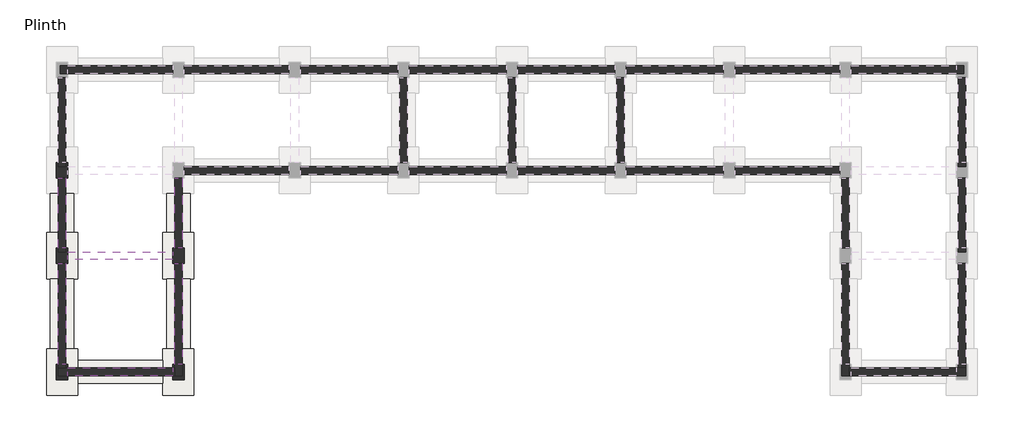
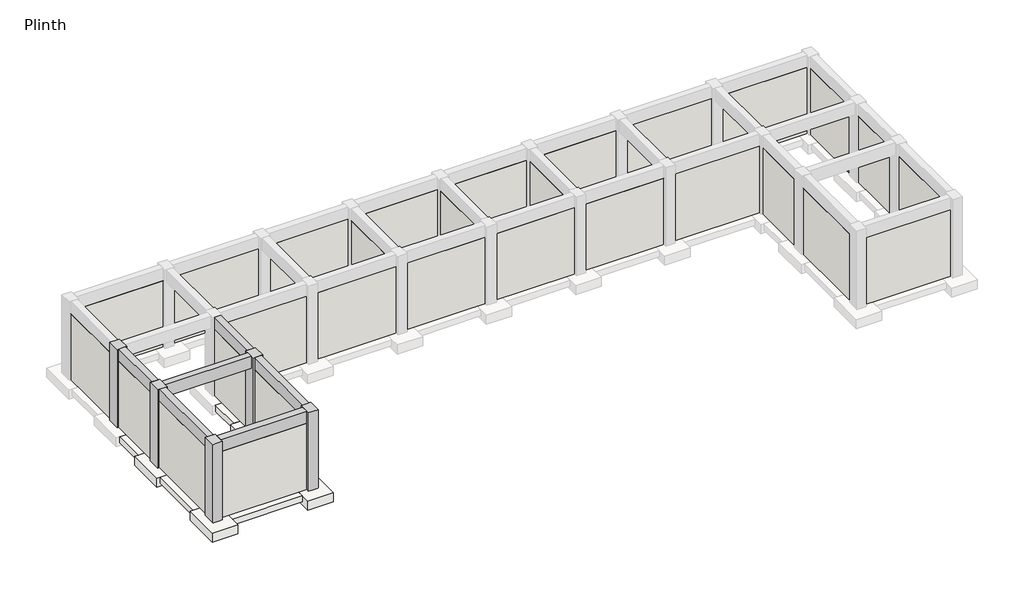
# One storey, part 1 of 3: 30 walls, 6 beams, 5 columns, 5 footings, 4 slabs.
"""IFC4 building model written with IfcOpenShell, lengths in millimetres."""

from ifc_helpers import new_model, si_unit, frame, origin, origin_with_axes, place, context, project, spatial, polyline, outline, extrude, faceted_brep, element, save

model = new_model("IFC4")

# Units and contexts
model_context = context("Model", 3, world=origin())
ifc_project = project(units=[si_unit("LENGTHUNIT", "METRE", prefix="MILLI")], contexts=[model_context])

# Site, building, storey
site = spatial("IfcSite", under=ifc_project)
building = spatial("IfcBuilding", under=site)
storey = spatial("IfcBuildingStorey", under=building, Name="Plinth", Elevation=304.8)

# Beams
placement = place(None, origin())
element("IfcBeam", 1, ObjectType="Concrete-Rectangular Beam : 12 x 24", at=placement, inside=storey, context=model_context, shape_type="SweptSolid", body=[
    extrude(outline(polyline([(-33700.7781752, 14207.7470864), (-33700.7781752, 13902.9470864), (-37815.5781752, 13902.9470864), (-37815.5781752, 14207.7470864), (-33700.7781752, 14207.7470864)])), frame((0.0, 0.0, 3657.6), z_axis=(0.0, 0.0, 1.0), x_axis=(1.0, 0.0, 0.0)), (0.0, 0.0, 1.0), 609.6),
])
element("IfcBeam", 2, ObjectType="Concrete-Rectangular Beam : 12 x 24", at=placement, inside=storey, context=model_context, shape_type="SweptSolid", body=[
    extrude(outline(polyline([(-38196.5781752, 17103.3470864), (-37891.7781752, 17103.3470864), (-37891.7781752, 14360.1470864), (-38196.5781752, 14360.1470864), (-38196.5781752, 17103.3470864)])), frame((0.0, 0.0, 3657.6), z_axis=(0.0, 0.0, 1.0), x_axis=(1.0, 0.0, 0.0)), (0.0, 0.0, 1.0), 609.6),
])
element("IfcBeam", 3, ObjectType="Concrete-Rectangular Beam : 12 x 24", at=placement, inside=storey, context=model_context, shape_type="SweptSolid", body=[
    extrude(outline(polyline([(-38196.5781752, 13750.5470864), (-37891.7781752, 13750.5470864), (-37891.7781752, 9788.1470864), (-38196.5781752, 9788.1470864), (-38196.5781752, 13750.5470864)])), frame((0.0, 0.0, 3657.6), z_axis=(0.0, 0.0, 1.0), x_axis=(1.0, 0.0, 0.0)), (0.0, 0.0, 1.0), 609.6),
])
element("IfcBeam", 4, ObjectType="Concrete-Rectangular Beam : 12 x 24", at=placement, inside=storey, context=model_context, shape_type="SweptSolid", body=[
    extrude(outline(polyline([(-33624.5781752, 17103.3470864), (-33319.7781752, 17103.3470864), (-33319.7781752, 14360.1470864), (-33624.5781752, 14360.1470864), (-33624.5781752, 17103.3470864)])), frame((0.0, 0.0, 3657.6), z_axis=(0.0, 0.0, 1.0), x_axis=(1.0, 0.0, 0.0)), (0.0, 0.0, 1.0), 609.6),
])
element("IfcBeam", 5, ObjectType="Concrete-Rectangular Beam : 12 x 24", at=placement, inside=storey, context=model_context, shape_type="SweptSolid", body=[
    extrude(outline(polyline([(-33624.5781752, 13750.5470864), (-33319.7781752, 13750.5470864), (-33319.7781752, 9788.1470864), (-33624.5781752, 9788.1470864), (-33624.5781752, 13750.5470864)])), frame((0.0, 0.0, 3657.6), z_axis=(0.0, 0.0, 1.0), x_axis=(1.0, 0.0, 0.0)), (0.0, 0.0, 1.0), 609.6),
])
element("IfcBeam", 6, ObjectType="Concrete-Rectangular Beam : 12 x 24", at=placement, inside=storey, context=model_context, shape_type="SweptSolid", body=[
    extrude(outline(polyline([(-33700.7781752, 9635.7470864), (-33700.7781752, 9330.9470864), (-37815.5781752, 9330.9470864), (-37815.5781752, 9635.7470864), (-33700.7781752, 9635.7470864)])), frame((0.0, 0.0, 3657.6), z_axis=(0.0, 0.0, 1.0), x_axis=(1.0, 0.0, 0.0)), (0.0, 0.0, 1.0), 609.6),
])

# Columns
element("IfcColumn", 7, ObjectType="Concrete-Rectangular-Column : 18 x 24", at=placement, inside=storey, context=model_context, shape_type="Brep", body=[
    faceted_brep([(-38272.7781752, 17103.3470864, 304.8), (-38272.7781752, 17712.9470864, 304.8), (-38196.5781752, 17712.9470864, 304.8), (-38196.5781752, 17560.5470864, 304.8), (-37891.7781752, 17560.5470864, 304.8), (-37891.7781752, 17712.9470864, 304.8), (-37815.5781752, 17712.9470864, 304.8), (-37815.5781752, 17103.3470864, 304.8), (-37891.7781752, 17103.3470864, 304.8), (-38196.5781752, 17103.3470864, 304.8), (-38272.7781752, 17103.3470864, 4267.2), (-38272.7781752, 17712.9470864, 4267.2), (-37815.5781752, 17103.3470864, 4267.2), (-37815.5781752, 17712.9470864, 4267.2), (-37891.7781752, 17712.9470864, 3657.6), (-38196.5781752, 17712.9470864, 3657.6), (-38196.5781752, 17560.5470864, 3657.6), (-37891.7781752, 17560.5470864, 3657.6)], [[[0, 1, 2, 3, 4, 5, 6, 7, 8, 9]], [[1, 0, 10, 11]], [[0, 9, 8, 7, 12, 10]], [[7, 6, 13, 12]], [[1, 11, 13, 6, 5, 14, 15, 2]], [[11, 10, 12, 13]], [[16, 3, 2, 15]], [[17, 16, 15, 14]], [[17, 4, 3, 16]], [[4, 17, 14, 5]]]),
])
element("IfcColumn", 8, ObjectType="Concrete-Rectangular-Column : 18 x 24", at=placement, inside=storey, context=model_context, shape_type="Brep", body=[
    faceted_brep([(-33700.7781752, 14360.1470864, 304.8), (-33624.5781752, 14360.1470864, 304.8), (-33319.7781752, 14360.1470864, 304.8), (-33243.5781752, 14360.1470864, 304.8), (-33243.5781752, 13750.5470864, 304.8), (-33319.7781752, 13750.5470864, 304.8), (-33624.5781752, 13750.5470864, 304.8), (-33700.7781752, 13750.5470864, 304.8), (-33700.7781752, 14360.1470864, 4267.2), (-33700.7781752, 13750.5470864, 4267.2), (-33243.5781752, 13750.5470864, 4267.2), (-33243.5781752, 14360.1470864, 4267.2)], [[[0, 1, 2, 3, 4, 5, 6, 7]], [[8, 0, 7, 9]], [[9, 7, 6, 5, 4, 10]], [[10, 4, 3, 11]], [[11, 3, 2, 1, 0, 8]], [[8, 9, 10, 11]]]),
])
element("IfcColumn", 9, ObjectType="Concrete-Rectangular-Column : 18 x 24", at=placement, inside=storey, context=model_context, shape_type="Brep", body=[
    faceted_brep([(-38272.7781752, 13750.5470864, 304.8), (-38272.7781752, 14360.1470864, 304.8), (-38196.5781752, 14360.1470864, 304.8), (-38196.5781752, 14207.7470864, 304.8), (-37891.7781752, 14207.7470864, 304.8), (-37891.7781752, 14360.1470864, 304.8), (-37815.5781752, 14360.1470864, 304.8), (-37815.5781752, 13750.5470864, 304.8), (-37891.7781752, 13750.5470864, 304.8), (-38196.5781752, 13750.5470864, 304.8), (-38272.7781752, 13750.5470864, 4267.2), (-38272.7781752, 14360.1470864, 4267.2), (-37815.5781752, 13750.5470864, 4267.2), (-37815.5781752, 14360.1470864, 4267.2), (-37891.7781752, 14360.1470864, 3657.6), (-38196.5781752, 14360.1470864, 3657.6), (-38196.5781752, 14207.7470864, 3657.6), (-37891.7781752, 14207.7470864, 3657.6)], [[[0, 1, 2, 3, 4, 5, 6, 7, 8, 9]], [[1, 0, 10, 11]], [[0, 9, 8, 7, 12, 10]], [[7, 6, 13, 12]], [[1, 11, 13, 6, 5, 14, 15, 2]], [[11, 10, 12, 13]], [[16, 3, 2, 15]], [[17, 16, 15, 14]], [[17, 4, 3, 16]], [[4, 17, 14, 5]]]),
])
element("IfcColumn", 10, ObjectType="Concrete-Rectangular-Column : 18 x 24", at=placement, inside=storey, context=model_context, shape_type="Brep", body=[
    faceted_brep([(-33243.5781752, 9178.5470864, 304.8), (-33700.7781752, 9178.5470864, 304.8), (-33700.7781752, 9330.9470864, 304.8), (-33624.5781752, 9330.9470864, 304.8), (-33319.7781752, 9330.9470864, 304.8), (-33319.7781752, 9788.1470864, 304.8), (-33243.5781752, 9788.1470864, 304.8), (-33700.7781752, 9178.5470864, 4267.2), (-33700.7781752, 9788.1470864, 4267.2), (-33700.7781752, 9788.1470864, 304.8), (-33700.7781752, 9635.7470864, 304.8), (-33700.7781752, 9635.7470864, 3657.6), (-33700.7781752, 9330.9470864, 3657.6), (-33243.5781752, 9178.5470864, 4267.2), (-33243.5781752, 9788.1470864, 4267.2), (-33319.7781752, 9788.1470864, 3657.6), (-33624.5781752, 9788.1470864, 3657.6), (-33624.5781752, 9788.1470864, 304.8), (-33624.5781752, 9635.7470864, 3657.6), (-33624.5781752, 9635.7470864, 304.8), (-33319.7781752, 9330.9470864, 3657.6), (-33624.5781752, 9330.9470864, 3657.6)], [[[0, 1, 2, 3, 4, 5, 6]], [[7, 8, 9, 10, 11, 12, 2, 1]], [[1, 0, 13, 7]], [[0, 6, 14, 13]], [[9, 8, 14, 6, 5, 15, 16, 17]], [[8, 7, 13, 14]], [[17, 16, 18, 19]], [[4, 20, 15, 5]], [[20, 4, 3, 2, 12, 21]], [[18, 11, 10, 19]], [[20, 21, 12, 11, 18, 16, 15]], [[9, 17, 19, 10]]]),
])
element("IfcColumn", 11, ObjectType="Concrete-Rectangular-Column : 18 x 24", at=placement, inside=storey, context=model_context, shape_type="Brep", body=[
    faceted_brep([(-37815.5781752, 9788.1470864, 304.8), (-37815.5781752, 9635.7470864, 304.8), (-37891.7781752, 9635.7470864, 304.8), (-37891.7781752, 9788.1470864, 304.8), (-38272.7781752, 9788.1470864, 304.8), (-38272.7781752, 9178.5470864, 304.8), (-38272.7781752, 9178.5470864, 4267.2), (-38272.7781752, 9788.1470864, 4267.2), (-37815.5781752, 9178.5470864, 304.8), (-37815.5781752, 9178.5470864, 4267.2), (-37815.5781752, 9330.9470864, 304.8), (-37815.5781752, 9330.9470864, 3657.6), (-37815.5781752, 9635.7470864, 3657.6), (-37815.5781752, 9788.1470864, 4267.2), (-37891.7781752, 9788.1470864, 3657.6), (-38196.5781752, 9788.1470864, 3657.6), (-38196.5781752, 9788.1470864, 304.8), (-37891.7781752, 9635.7470864, 3657.6), (-38196.5781752, 9330.9470864, 3657.6), (-38196.5781752, 9330.9470864, 304.8), (-38196.5781752, 9635.7470864, 3657.6), (-38196.5781752, 9635.7470864, 304.8)], [[[0, 1, 2, 3]], [[4, 5, 6, 7]], [[5, 8, 9, 6]], [[9, 8, 10, 11, 12, 1, 0, 13]], [[4, 7, 13, 0, 3, 14, 15, 16]], [[7, 6, 9, 13]], [[1, 12, 17, 2]], [[18, 11, 10, 19]], [[11, 18, 20, 15, 14, 17, 12]], [[15, 20, 18, 19, 21, 16]], [[17, 14, 3, 2]], [[5, 4, 16, 21, 19, 10, 8]]]),
])

# Footings
element("IfcFooting", 12, ObjectType="Bearing Footing - 36\" x 12\"", at=placement, inside=storey, context=model_context, shape_type="SweptSolid", body=[
    extrude(outline(polyline([(-38501.3781752, 16493.7470864), (-37586.9781752, 16493.7470864), (-37586.9781752, 14969.7470864), (-38501.3781752, 14969.7470864), (-38501.3781752, 16493.7470864)])), origin_with_axes(), (0.0, 0.0, 1.0), 304.8),
])
element("IfcFooting", 13, ObjectType="Bearing Footing - 36\" x 12\"", at=placement, inside=storey, context=model_context, shape_type="SweptSolid", body=[
    extrude(outline(polyline([(-38501.3781752, 13140.9470864), (-37586.9781752, 13140.9470864), (-37586.9781752, 10397.7470864), (-38501.3781752, 10397.7470864), (-38501.3781752, 13140.9470864)])), origin_with_axes(), (0.0, 0.0, 1.0), 304.8),
])
element("IfcFooting", 14, ObjectType="Bearing Footing - 36\" x 12\"", at=placement, inside=storey, context=model_context, shape_type="SweptSolid", body=[
    extrude(outline(polyline([(-34081.7781752, 9940.5470864), (-34081.7781752, 9026.1470864), (-37434.5781752, 9026.1470864), (-37434.5781752, 9940.5470864), (-34081.7781752, 9940.5470864)])), origin_with_axes(), (0.0, 0.0, 1.0), 304.8),
])
element("IfcFooting", 15, ObjectType="Bearing Footing - 36\" x 12\"", at=placement, inside=storey, context=model_context, shape_type="SweptSolid", body=[
    extrude(outline(polyline([(-33929.3781752, 13140.9470864), (-33014.9781752, 13140.9470864), (-33014.9781752, 10397.7470864), (-33929.3781752, 10397.7470864), (-33929.3781752, 13140.9470864)])), origin_with_axes(), (0.0, 0.0, 1.0), 304.8),
])
element("IfcFooting", 16, ObjectType="Bearing Footing - 36\" x 12\"", at=placement, inside=storey, context=model_context, shape_type="SweptSolid", body=[
    extrude(outline(polyline([(-33929.3781752, 16493.7470864), (-33014.9781752, 16493.7470864), (-33014.9781752, 14969.7470864), (-33929.3781752, 14969.7470864), (-33929.3781752, 16493.7470864)])), origin_with_axes(), (0.0, 0.0, 1.0), 304.8),
])

# Slabs
element("IfcSlab", 17, ObjectType="Footing-Rectangular : 72\" x 48\" x 18\"", at=placement, inside=storey, context=model_context, shape_type="Brep", body=[
    faceted_brep([(-32862.5781752, 13140.9470864, 304.8), (-32862.5781752, 14969.7470864, 304.8), (-33014.9781752, 14969.7470864, 304.8), (-33929.3781752, 14969.7470864, 304.8), (-34081.7781752, 14969.7470864, 304.8), (-34081.7781752, 13140.9470864, 304.8), (-33929.3781752, 13140.9470864, 304.8), (-33014.9781752, 13140.9470864, 304.8), (-32862.5781752, 13140.9470864, -152.4), (-34081.7781752, 13140.9470864, -152.4), (-34081.7781752, 14969.7470864, -152.4), (-32862.5781752, 14969.7470864, -152.4)], [[[0, 1, 2, 3, 4, 5, 6, 7]], [[8, 9, 10, 11]], [[5, 9, 8, 0, 7, 6]], [[4, 10, 9, 5]], [[1, 11, 10, 4, 3, 2]], [[0, 8, 11, 1]]]),
])
element("IfcSlab", 18, ObjectType="Footing-Rectangular : 72\" x 48\" x 18\"", at=placement, inside=storey, context=model_context, shape_type="Brep", body=[
    faceted_brep([(-37434.5781752, 13140.9470864, 304.8), (-37434.5781752, 14969.7470864, 304.8), (-37586.9781752, 14969.7470864, 304.8), (-38501.3781752, 14969.7470864, 304.8), (-38653.7781752, 14969.7470864, 304.8), (-38653.7781752, 13140.9470864, 304.8), (-38501.3781752, 13140.9470864, 304.8), (-37586.9781752, 13140.9470864, 304.8), (-37434.5781752, 13140.9470864, -152.4), (-38653.7781752, 13140.9470864, -152.4), (-38653.7781752, 14969.7470864, -152.4), (-37434.5781752, 14969.7470864, -152.4)], [[[0, 1, 2, 3, 4, 5, 6, 7]], [[8, 9, 10, 11]], [[5, 9, 8, 0, 7, 6]], [[4, 10, 9, 5]], [[1, 11, 10, 4, 3, 2]], [[0, 8, 11, 1]]]),
])
element("IfcSlab", 19, ObjectType="Footing-Rectangular : 72\" x 48\" x 18\"", at=placement, inside=storey, context=model_context, shape_type="Brep", body=[
    faceted_brep([(-32862.5781752, 8568.9470864, 304.8), (-32862.5781752, 10397.7470864, 304.8), (-33014.9781752, 10397.7470864, 304.8), (-33929.3781752, 10397.7470864, 304.8), (-34081.7781752, 10397.7470864, 304.8), (-34081.7781752, 9940.5470864, 304.8), (-34081.7781752, 9026.1470864, 304.8), (-34081.7781752, 8568.9470864, 304.8), (-32862.5781752, 8568.9470864, -152.4), (-34081.7781752, 8568.9470864, -152.4), (-34081.7781752, 10397.7470864, -152.4), (-32862.5781752, 10397.7470864, -152.4)], [[[0, 1, 2, 3, 4, 5, 6, 7]], [[8, 9, 10, 11]], [[7, 9, 8, 0]], [[4, 10, 9, 7, 6, 5]], [[1, 11, 10, 4, 3, 2]], [[0, 8, 11, 1]]]),
])
element("IfcSlab", 20, ObjectType="Footing-Rectangular : 72\" x 48\" x 18\"", at=placement, inside=storey, context=model_context, shape_type="Brep", body=[
    faceted_brep([(-37434.5781752, 8568.9470864, 304.8), (-37434.5781752, 9026.1470864, 304.8), (-37434.5781752, 9940.5470864, 304.8), (-37434.5781752, 10397.7470864, 304.8), (-37586.9781752, 10397.7470864, 304.8), (-38501.3781752, 10397.7470864, 304.8), (-38653.7781752, 10397.7470864, 304.8), (-38653.7781752, 8568.9470864, 304.8), (-37434.5781752, 8568.9470864, -152.4), (-38653.7781752, 8568.9470864, -152.4), (-38653.7781752, 10397.7470864, -152.4), (-37434.5781752, 10397.7470864, -152.4)], [[[0, 1, 2, 3, 4, 5, 6, 7]], [[8, 9, 10, 11]], [[7, 9, 8, 0]], [[6, 10, 9, 7]], [[3, 11, 10, 6, 5, 4]], [[0, 8, 11, 3, 2, 1]]]),
])

# Walls
element("IfcWall", 21, ObjectType="Exterior - 12\" Concrete", at=placement, inside=storey, context=model_context, shape_type="Brep", body=[
    faceted_brep([(-7030.7781752, 21218.1470864, 304.8), (-2915.9781752, 21218.1470864, 304.8), (-2611.1781752, 21218.1470864, 304.8), (-2611.1781752, 21218.1470864, 3657.6), (-2915.9781752, 21218.1470864, 3657.6), (-7030.7781752, 21218.1470864, 3657.6), (-7030.7781752, 21522.9470864, 304.8), (-7030.7781752, 21522.9470864, 3657.6), (-2915.9781752, 21522.9470864, 3657.6), (-2611.1781752, 21522.9470864, 3657.6), (-2611.1781752, 21522.9470864, 304.8), (-2915.9781752, 21522.9470864, 304.8)], [[[0, 1, 2, 3, 4, 5]], [[6, 7, 8, 9, 10, 11]], [[2, 1, 0, 6, 11, 10]], [[3, 2, 10, 9]], [[5, 4, 3, 9, 8, 7]], [[0, 5, 7, 6]]]),
])
element("IfcWall", 22, ObjectType="Exterior - 12\" Concrete", at=placement, inside=storey, context=model_context, shape_type="SweptSolid", body=[
    extrude(outline(polyline([(-7411.7781752, 14360.1470864), (-7411.7781752, 17103.3470864), (-7106.9781752, 17103.3470864), (-7106.9781752, 14360.1470864), (-7411.7781752, 14360.1470864)])), frame((0.0, 0.0, 304.8), z_axis=(0.0, 0.0, 1.0), x_axis=(1.0, 0.0, 0.0)), (0.0, 0.0, 1.0), 3352.8),
])
element("IfcWall", 23, ObjectType="Exterior - 12\" Concrete", at=placement, inside=storey, context=model_context, shape_type="Brep", body=[
    faceted_brep([(-7411.7781752, 13750.5470864, 304.8), (-7411.7781752, 9788.1470864, 304.8), (-7411.7781752, 9330.9470864, 304.8), (-7411.7781752, 9330.9470864, 3657.6), (-7411.7781752, 9788.1470864, 3657.6), (-7411.7781752, 13750.5470864, 3657.6), (-7106.9781752, 13750.5470864, 304.8), (-7106.9781752, 13750.5470864, 3657.6), (-7106.9781752, 9788.1470864, 3657.6), (-7106.9781752, 9635.7470864, 3657.6), (-7106.9781752, 9330.9470864, 3657.6), (-7106.9781752, 9330.9470864, 304.8), (-7106.9781752, 9635.7470864, 304.8), (-7106.9781752, 9788.1470864, 304.8)], [[[0, 1, 2, 3, 4, 5]], [[6, 7, 8, 9, 10, 11, 12, 13]], [[2, 1, 0, 6, 13, 12, 11]], [[5, 4, 3, 10, 9, 8, 7]], [[0, 5, 7, 6]], [[3, 2, 11, 10]]]),
])
element("IfcWall", 24, ObjectType="Exterior - 12\" Concrete", at=placement, inside=storey, context=model_context, shape_type="Brep", body=[
    faceted_brep([(-7106.9781752, 9330.9470864, 304.8), (-7030.7781752, 9330.9470864, 304.8), (-2915.9781752, 9330.9470864, 304.8), (-2534.9781752, 9330.9470864, 304.8), (-2534.9781752, 9330.9470864, 3657.6), (-2915.9781752, 9330.9470864, 3657.6), (-7030.7781752, 9330.9470864, 3657.6), (-7106.9781752, 9330.9470864, 3657.6), (-7106.9781752, 9635.7470864, 304.8), (-7106.9781752, 9635.7470864, 3657.6), (-7030.7781752, 9635.7470864, 3657.6), (-2915.9781752, 9635.7470864, 3657.6), (-2839.7781752, 9635.7470864, 3657.6), (-2534.9781752, 9635.7470864, 3657.6), (-2534.9781752, 9635.7470864, 304.8), (-2839.7781752, 9635.7470864, 304.8), (-2915.9781752, 9635.7470864, 304.8), (-7030.7781752, 9635.7470864, 304.8)], [[[0, 1, 2, 3, 4, 5, 6, 7]], [[8, 9, 10, 11, 12, 13, 14, 15, 16, 17]], [[3, 2, 1, 0, 8, 17, 16, 15, 14]], [[7, 6, 5, 4, 13, 12, 11, 10, 9]], [[0, 7, 9, 8]], [[4, 3, 14, 13]]]),
])
element("IfcWall", 25, ObjectType="Exterior - 12\" Concrete", at=placement, inside=storey, context=model_context, shape_type="Brep", body=[
    faceted_brep([(-2534.9781752, 9635.7470864, 304.8), (-2534.9781752, 9788.1470864, 304.8), (-2534.9781752, 13750.5470864, 304.8), (-2534.9781752, 13750.5470864, 3657.6), (-2534.9781752, 9788.1470864, 3657.6), (-2534.9781752, 9635.7470864, 3657.6), (-2839.7781752, 9635.7470864, 304.8), (-2839.7781752, 9635.7470864, 3657.6), (-2839.7781752, 9788.1470864, 3657.6), (-2839.7781752, 13750.5470864, 3657.6), (-2839.7781752, 13750.5470864, 304.8), (-2839.7781752, 9788.1470864, 304.8)], [[[0, 1, 2, 3, 4, 5]], [[6, 7, 8, 9, 10, 11]], [[2, 1, 0, 6, 11, 10]], [[3, 2, 10, 9]], [[5, 4, 3, 9, 8, 7]], [[0, 5, 7, 6]]]),
])
element("IfcWall", 26, ObjectType="Exterior - 12\" Concrete", at=placement, inside=storey, context=model_context, shape_type="Brep", body=[
    faceted_brep([(-2534.9781752, 14207.7470864, 304.8), (-2534.9781752, 14360.1470864, 304.8), (-2534.9781752, 17103.3470864, 304.8), (-2534.9781752, 17103.3470864, 3657.6), (-2534.9781752, 14360.1470864, 3657.6), (-2534.9781752, 14207.7470864, 3657.6), (-2839.7781752, 14207.7470864, 304.8), (-2839.7781752, 14207.7470864, 3657.6), (-2839.7781752, 14360.1470864, 3657.6), (-2839.7781752, 17103.3470864, 3657.6), (-2839.7781752, 17103.3470864, 304.8), (-2839.7781752, 14360.1470864, 304.8)], [[[0, 1, 2, 3, 4, 5]], [[6, 7, 8, 9, 10, 11]], [[2, 1, 0, 6, 11, 10]], [[3, 2, 10, 9]], [[5, 4, 3, 9, 8, 7]], [[0, 5, 7, 6]]]),
])
element("IfcWall", 27, ObjectType="Exterior - 12\" Concrete", at=placement, inside=storey, context=model_context, shape_type="Brep", body=[
    faceted_brep([(-2534.9781752, 17560.5470864, 304.8), (-2534.9781752, 17712.9470864, 304.8), (-2534.9781752, 21065.7470864, 304.8), (-2534.9781752, 21065.7470864, 3657.6), (-2534.9781752, 17712.9470864, 3657.6), (-2534.9781752, 17560.5470864, 3657.6), (-2839.7781752, 17560.5470864, 304.8), (-2839.7781752, 17560.5470864, 3657.6), (-2839.7781752, 17712.9470864, 3657.6), (-2839.7781752, 21065.7470864, 3657.6), (-2839.7781752, 21065.7470864, 304.8), (-2839.7781752, 17712.9470864, 304.8)], [[[0, 1, 2, 3, 4, 5]], [[6, 7, 8, 9, 10, 11]], [[2, 1, 0, 6, 11, 10]], [[3, 2, 10, 9]], [[5, 4, 3, 9, 8, 7]], [[0, 5, 7, 6]]]),
])
element("IfcWall", 28, ObjectType="Exterior - 12\" Concrete", at=placement, inside=storey, context=model_context, shape_type="SweptSolid", body=[
    extrude(outline(polyline([(-20518.1781752, 17712.9470864), (-20518.1781752, 21065.7470864), (-20213.3781752, 21065.7470864), (-20213.3781752, 17712.9470864), (-20518.1781752, 17712.9470864)])), frame((0.0, 0.0, 304.8), z_axis=(0.0, 0.0, 1.0), x_axis=(1.0, 0.0, 0.0)), (0.0, 0.0, 1.0), 3352.8),
])
element("IfcWall", 29, ObjectType="Exterior - 12\" Concrete", at=placement, inside=storey, context=model_context, shape_type="SweptSolid", body=[
    extrude(outline(polyline([(-16327.1781752, 21218.1470864), (-20137.1781752, 21218.1470864), (-20137.1781752, 21522.9470864), (-16327.1781752, 21522.9470864), (-16327.1781752, 21218.1470864)])), frame((0.0, 0.0, 304.8), z_axis=(0.0, 0.0, 1.0), x_axis=(1.0, 0.0, 0.0)), (0.0, 0.0, 1.0), 3352.8),
])
element("IfcWall", 30, ObjectType="Exterior - 12\" Concrete", at=placement, inside=storey, context=model_context, shape_type="SweptSolid", body=[
    extrude(outline(polyline([(-12059.9781752, 21218.1470864), (-15869.9781752, 21218.1470864), (-15869.9781752, 21522.9470864), (-12059.9781752, 21522.9470864), (-12059.9781752, 21218.1470864)])), frame((0.0, 0.0, 304.8), z_axis=(0.0, 0.0, 1.0), x_axis=(1.0, 0.0, 0.0)), (0.0, 0.0, 1.0), 3352.8),
])
element("IfcWall", 31, ObjectType="Exterior - 12\" Concrete", at=placement, inside=storey, context=model_context, shape_type="SweptSolid", body=[
    extrude(outline(polyline([(-7487.9781752, 21218.1470864), (-11602.7781752, 21218.1470864), (-11602.7781752, 21522.9470864), (-7487.9781752, 21522.9470864), (-7487.9781752, 21218.1470864)])), frame((0.0, 0.0, 304.8), z_axis=(0.0, 0.0, 1.0), x_axis=(1.0, 0.0, 0.0)), (0.0, 0.0, 1.0), 3352.8),
])
element("IfcWall", 32, ObjectType="Exterior - 12\" Concrete", at=placement, inside=storey, context=model_context, shape_type="SweptSolid", body=[
    extrude(outline(polyline([(-16327.1781752, 17255.7470864), (-20137.1781752, 17255.7470864), (-20137.1781752, 17560.5470864), (-16327.1781752, 17560.5470864), (-16327.1781752, 17255.7470864)])), frame((0.0, 0.0, 304.8), z_axis=(0.0, 0.0, 1.0), x_axis=(1.0, 0.0, 0.0)), (0.0, 0.0, 1.0), 3352.8),
])
element("IfcWall", 33, ObjectType="Exterior - 12\" Concrete", at=placement, inside=storey, context=model_context, shape_type="SweptSolid", body=[
    extrude(outline(polyline([(-12059.9781752, 17255.7470864), (-15869.9781752, 17255.7470864), (-15869.9781752, 17560.5470864), (-12059.9781752, 17560.5470864), (-12059.9781752, 17255.7470864)])), frame((0.0, 0.0, 304.8), z_axis=(0.0, 0.0, 1.0), x_axis=(1.0, 0.0, 0.0)), (0.0, 0.0, 1.0), 3352.8),
])
element("IfcWall", 34, ObjectType="Exterior - 12\" Concrete", at=placement, inside=storey, context=model_context, shape_type="SweptSolid", body=[
    extrude(outline(polyline([(-7487.9781752, 17255.7470864), (-11602.7781752, 17255.7470864), (-11602.7781752, 17560.5470864), (-7487.9781752, 17560.5470864), (-7487.9781752, 17255.7470864)])), frame((0.0, 0.0, 304.8), z_axis=(0.0, 0.0, 1.0), x_axis=(1.0, 0.0, 0.0)), (0.0, 0.0, 1.0), 3352.8),
])
element("IfcWall", 35, ObjectType="Exterior - 12\" Concrete", at=placement, inside=storey, context=model_context, shape_type="SweptSolid", body=[
    extrude(outline(polyline([(-16250.9781752, 17712.9470864), (-16250.9781752, 21065.7470864), (-15946.1781752, 21065.7470864), (-15946.1781752, 17712.9470864), (-16250.9781752, 17712.9470864)])), frame((0.0, 0.0, 304.8), z_axis=(0.0, 0.0, 1.0), x_axis=(1.0, 0.0, 0.0)), (0.0, 0.0, 1.0), 3352.8),
])
element("IfcWall", 36, ObjectType="Exterior - 12\" Concrete", at=placement, inside=storey, context=model_context, shape_type="Brep", body=[
    faceted_brep([(-33700.7781752, 21522.9470864, 304.8), (-37815.5781752, 21522.9470864, 304.8), (-38120.3781752, 21522.9470864, 304.8), (-38120.3781752, 21522.9470864, 3657.6), (-37815.5781752, 21522.9470864, 3657.6), (-33700.7781752, 21522.9470864, 3657.6), (-33700.7781752, 21218.1470864, 304.8), (-33700.7781752, 21218.1470864, 3657.6), (-37815.5781752, 21218.1470864, 3657.6), (-38120.3781752, 21218.1470864, 3657.6), (-38120.3781752, 21218.1470864, 304.8), (-37815.5781752, 21218.1470864, 304.8)], [[[0, 1, 2, 3, 4, 5]], [[6, 7, 8, 9, 10, 11]], [[2, 1, 0, 6, 11, 10]], [[3, 2, 10, 9]], [[5, 4, 3, 9, 8, 7]], [[0, 5, 7, 6]]]),
])
element("IfcWall", 37, ObjectType="Exterior - 12\" Concrete", at=placement, inside=storey, context=model_context, shape_type="SweptSolid", body=[
    extrude(outline(polyline([(-33624.5781752, 14360.1470864), (-33624.5781752, 17103.3470864), (-33319.7781752, 17103.3470864), (-33319.7781752, 14360.1470864), (-33624.5781752, 14360.1470864)])), frame((0.0, 0.0, 304.8), z_axis=(0.0, 0.0, 1.0), x_axis=(1.0, 0.0, 0.0)), (0.0, 0.0, 1.0), 3352.8),
])
element("IfcWall", 38, ObjectType="Exterior - 12\" Concrete", at=placement, inside=storey, context=model_context, shape_type="Brep", body=[
    faceted_brep([(-33624.5781752, 13750.5470864, 304.8), (-33624.5781752, 9788.1470864, 304.8), (-33624.5781752, 9635.7470864, 304.8), (-33624.5781752, 9330.9470864, 304.8), (-33624.5781752, 9330.9470864, 3657.6), (-33624.5781752, 9635.7470864, 3657.6), (-33624.5781752, 9788.1470864, 3657.6), (-33624.5781752, 13750.5470864, 3657.6), (-33319.7781752, 13750.5470864, 304.8), (-33319.7781752, 13750.5470864, 3657.6), (-33319.7781752, 9788.1470864, 3657.6), (-33319.7781752, 9330.9470864, 3657.6), (-33319.7781752, 9330.9470864, 304.8), (-33319.7781752, 9788.1470864, 304.8)], [[[0, 1, 2, 3, 4, 5, 6, 7]], [[8, 9, 10, 11, 12, 13]], [[3, 2, 1, 0, 8, 13, 12]], [[7, 6, 5, 4, 11, 10, 9]], [[0, 7, 9, 8]], [[4, 3, 12, 11]]]),
])
element("IfcWall", 39, ObjectType="Exterior - 12\" Concrete", at=placement, inside=storey, context=model_context, shape_type="Brep", body=[
    faceted_brep([(-33624.5781752, 9635.7470864, 304.8), (-33700.7781752, 9635.7470864, 304.8), (-37815.5781752, 9635.7470864, 304.8), (-37891.7781752, 9635.7470864, 304.8), (-38196.5781752, 9635.7470864, 304.8), (-38196.5781752, 9635.7470864, 3657.6), (-37891.7781752, 9635.7470864, 3657.6), (-37815.5781752, 9635.7470864, 3657.6), (-33700.7781752, 9635.7470864, 3657.6), (-33624.5781752, 9635.7470864, 3657.6), (-33624.5781752, 9330.9470864, 304.8), (-33624.5781752, 9330.9470864, 3657.6), (-33700.7781752, 9330.9470864, 3657.6), (-37815.5781752, 9330.9470864, 3657.6), (-38196.5781752, 9330.9470864, 3657.6), (-38196.5781752, 9330.9470864, 304.8), (-37815.5781752, 9330.9470864, 304.8), (-33700.7781752, 9330.9470864, 304.8)], [[[0, 1, 2, 3, 4, 5, 6, 7, 8, 9]], [[10, 11, 12, 13, 14, 15, 16, 17]], [[4, 3, 2, 1, 0, 10, 17, 16, 15]], [[9, 8, 7, 6, 5, 14, 13, 12, 11]], [[0, 9, 11, 10]], [[5, 4, 15, 14]]]),
])
element("IfcWall", 40, ObjectType="Exterior - 12\" Concrete", at=placement, inside=storey, context=model_context, shape_type="Brep", body=[
    faceted_brep([(-37891.7781752, 9635.7470864, 304.8), (-37891.7781752, 9788.1470864, 304.8), (-37891.7781752, 13750.5470864, 304.8), (-37891.7781752, 13750.5470864, 3657.6), (-37891.7781752, 9788.1470864, 3657.6), (-37891.7781752, 9635.7470864, 3657.6), (-38196.5781752, 9635.7470864, 304.8), (-38196.5781752, 9635.7470864, 3657.6), (-38196.5781752, 9788.1470864, 3657.6), (-38196.5781752, 13750.5470864, 3657.6), (-38196.5781752, 13750.5470864, 304.8), (-38196.5781752, 9788.1470864, 304.8)], [[[0, 1, 2, 3, 4, 5]], [[6, 7, 8, 9, 10, 11]], [[2, 1, 0, 6, 11, 10]], [[3, 2, 10, 9]], [[5, 4, 3, 9, 8, 7]], [[0, 5, 7, 6]]]),
])
element("IfcWall", 41, ObjectType="Exterior - 12\" Concrete", at=placement, inside=storey, context=model_context, shape_type="Brep", body=[
    faceted_brep([(-37891.7781752, 14207.7470864, 304.8), (-37891.7781752, 14360.1470864, 304.8), (-37891.7781752, 17103.3470864, 304.8), (-37891.7781752, 17103.3470864, 3657.6), (-37891.7781752, 14360.1470864, 3657.6), (-37891.7781752, 14207.7470864, 3657.6), (-38196.5781752, 14207.7470864, 304.8), (-38196.5781752, 14207.7470864, 3657.6), (-38196.5781752, 14360.1470864, 3657.6), (-38196.5781752, 17103.3470864, 3657.6), (-38196.5781752, 17103.3470864, 304.8), (-38196.5781752, 14360.1470864, 304.8)], [[[0, 1, 2, 3, 4, 5]], [[6, 7, 8, 9, 10, 11]], [[2, 1, 0, 6, 11, 10]], [[3, 2, 10, 9]], [[5, 4, 3, 9, 8, 7]], [[0, 5, 7, 6]]]),
])
element("IfcWall", 42, ObjectType="Exterior - 12\" Concrete", at=placement, inside=storey, context=model_context, shape_type="Brep", body=[
    faceted_brep([(-37891.7781752, 17560.5470864, 304.8), (-37891.7781752, 17712.9470864, 304.8), (-37891.7781752, 21065.7470864, 304.8), (-37891.7781752, 21065.7470864, 3657.6), (-37891.7781752, 17712.9470864, 3657.6), (-37891.7781752, 17560.5470864, 3657.6), (-38196.5781752, 17560.5470864, 304.8), (-38196.5781752, 17560.5470864, 3657.6), (-38196.5781752, 17712.9470864, 3657.6), (-38196.5781752, 21065.7470864, 3657.6), (-38196.5781752, 21065.7470864, 304.8), (-38196.5781752, 17712.9470864, 304.8)], [[[0, 1, 2, 3, 4, 5]], [[6, 7, 8, 9, 10, 11]], [[2, 1, 0, 6, 11, 10]], [[3, 2, 10, 9]], [[5, 4, 3, 9, 8, 7]], [[0, 5, 7, 6]]]),
])
element("IfcWall", 43, ObjectType="Exterior - 12\" Concrete", at=placement, inside=storey, context=model_context, shape_type="SweptSolid", body=[
    extrude(outline(polyline([(-20518.1781752, 17712.9470864), (-20518.1781752, 21065.7470864), (-20213.3781752, 21065.7470864), (-20213.3781752, 17712.9470864), (-20518.1781752, 17712.9470864)])), frame((0.0, 0.0, 304.8), z_axis=(0.0, 0.0, 1.0), x_axis=(1.0, 0.0, 0.0)), (0.0, 0.0, 1.0), 3352.8),
])
element("IfcWall", 44, ObjectType="Exterior - 12\" Concrete", at=placement, inside=storey, context=model_context, shape_type="SweptSolid", body=[
    extrude(outline(polyline([(-24404.3781752, 21522.9470864), (-20594.3781752, 21522.9470864), (-20594.3781752, 21218.1470864), (-24404.3781752, 21218.1470864), (-24404.3781752, 21522.9470864)])), frame((0.0, 0.0, 304.8), z_axis=(0.0, 0.0, 1.0), x_axis=(1.0, 0.0, 0.0)), (0.0, 0.0, 1.0), 3352.8),
])
element("IfcWall", 45, ObjectType="Exterior - 12\" Concrete", at=placement, inside=storey, context=model_context, shape_type="SweptSolid", body=[
    extrude(outline(polyline([(-28671.5781752, 21522.9470864), (-24861.5781752, 21522.9470864), (-24861.5781752, 21218.1470864), (-28671.5781752, 21218.1470864), (-28671.5781752, 21522.9470864)])), frame((0.0, 0.0, 304.8), z_axis=(0.0, 0.0, 1.0), x_axis=(1.0, 0.0, 0.0)), (0.0, 0.0, 1.0), 3352.8),
])
element("IfcWall", 46, ObjectType="Exterior - 12\" Concrete", at=placement, inside=storey, context=model_context, shape_type="SweptSolid", body=[
    extrude(outline(polyline([(-33243.5781752, 21522.9470864), (-29128.7781752, 21522.9470864), (-29128.7781752, 21218.1470864), (-33243.5781752, 21218.1470864), (-33243.5781752, 21522.9470864)])), frame((0.0, 0.0, 304.8), z_axis=(0.0, 0.0, 1.0), x_axis=(1.0, 0.0, 0.0)), (0.0, 0.0, 1.0), 3352.8),
])
element("IfcWall", 47, ObjectType="Exterior - 12\" Concrete", at=placement, inside=storey, context=model_context, shape_type="SweptSolid", body=[
    extrude(outline(polyline([(-24404.3781752, 17560.5470864), (-20594.3781752, 17560.5470864), (-20594.3781752, 17255.7470864), (-24404.3781752, 17255.7470864), (-24404.3781752, 17560.5470864)])), frame((0.0, 0.0, 304.8), z_axis=(0.0, 0.0, 1.0), x_axis=(1.0, 0.0, 0.0)), (0.0, 0.0, 1.0), 3352.8),
])
element("IfcWall", 48, ObjectType="Exterior - 12\" Concrete", at=placement, inside=storey, context=model_context, shape_type="SweptSolid", body=[
    extrude(outline(polyline([(-28671.5781752, 17560.5470864), (-24861.5781752, 17560.5470864), (-24861.5781752, 17255.7470864), (-28671.5781752, 17255.7470864), (-28671.5781752, 17560.5470864)])), frame((0.0, 0.0, 304.8), z_axis=(0.0, 0.0, 1.0), x_axis=(1.0, 0.0, 0.0)), (0.0, 0.0, 1.0), 3352.8),
])
element("IfcWall", 49, ObjectType="Exterior - 12\" Concrete", at=placement, inside=storey, context=model_context, shape_type="SweptSolid", body=[
    extrude(outline(polyline([(-33243.5781752, 17560.5470864), (-29128.7781752, 17560.5470864), (-29128.7781752, 17255.7470864), (-33243.5781752, 17255.7470864), (-33243.5781752, 17560.5470864)])), frame((0.0, 0.0, 304.8), z_axis=(0.0, 0.0, 1.0), x_axis=(1.0, 0.0, 0.0)), (0.0, 0.0, 1.0), 3352.8),
])
element("IfcWall", 50, ObjectType="Exterior - 12\" Concrete", at=placement, inside=storey, context=model_context, shape_type="SweptSolid", body=[
    extrude(outline(polyline([(-24785.3781752, 17712.9470864), (-24785.3781752, 21065.7470864), (-24480.5781752, 21065.7470864), (-24480.5781752, 17712.9470864), (-24785.3781752, 17712.9470864)])), frame((0.0, 0.0, 304.8), z_axis=(0.0, 0.0, 1.0), x_axis=(1.0, 0.0, 0.0)), (0.0, 0.0, 1.0), 3352.8),
])

save(model, "model.ifc")
